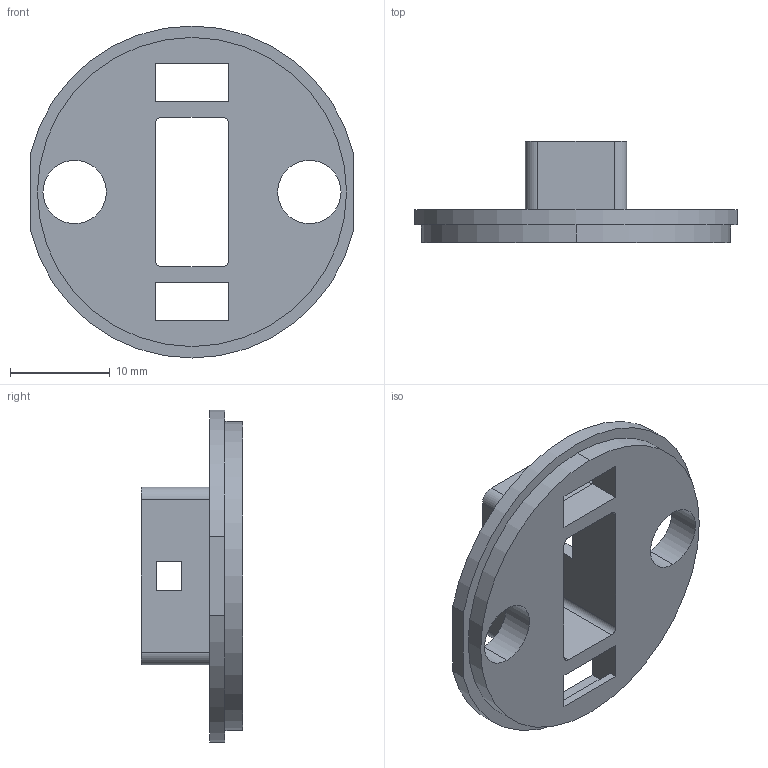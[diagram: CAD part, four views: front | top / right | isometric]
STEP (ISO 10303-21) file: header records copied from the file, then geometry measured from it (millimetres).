
FILE_DESCRIPTION (( 'STEP AP214' ), '1' );
FILE_NAME ('Key Fab 2.STEP', '2022-04-13T19:47:01', ( '' ), ( '' ), 'SwSTEP 2.0', 'SolidWorks 2020', '' );
FILE_SCHEMA (( 'AUTOMOTIVE_DESIGN' ));
Length unit declared in the file: inch
Products named in the file (1): Key Fab 2
Bounding box: 32.31 x 10.16 x 33.27 mm (x, y, z)
Volume: 2300.8 mm3; surface area: 2707.8 mm2
Topology: 1 solids, 1 shells, 51 faces, 141 edges, 94 vertices
Faces by surface type: plane 34, cylinder 17
Entity records: 1697 total; most frequent: CARTESIAN_POINT 287, ORIENTED_EDGE 282, DIRECTION 279, EDGE_CURVE 141, VECTOR 107, LINE 107, VERTEX_POINT 94, AXIS2_PLACEMENT_3D 86
